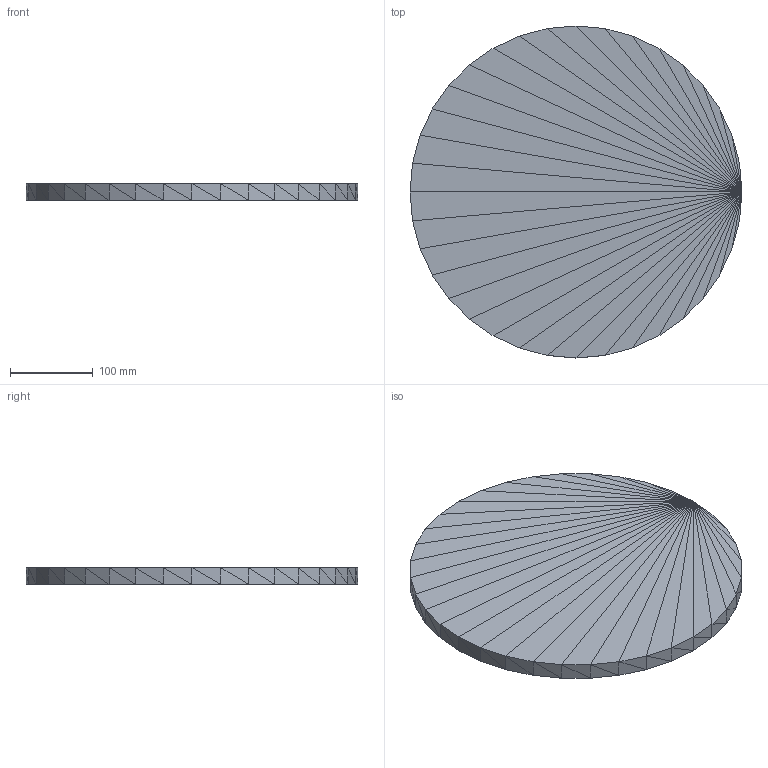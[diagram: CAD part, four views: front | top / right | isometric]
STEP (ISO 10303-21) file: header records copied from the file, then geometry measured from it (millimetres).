
FILE_DESCRIPTION(('ISINAC STEP AP214'),'2;1');
FILE_NAME('ISINAC_CIR.400_20mm_ADHESIVO','2026-05-03T10:49:19',('ISINAC'),('www.isinac.com'),'ISINAC BIM Generator 1.0','','');
FILE_SCHEMA(('AUTOMOTIVE_DESIGN'));
Length unit declared in the file: millimetre
Products named in the file (1): ISINAC_CIR.400_20mm_ADHESIVO
Bounding box: 400 x 400 x 20 mm (x, y, z)
Surface area: 275154.3 mm2 (no closed solid volume)
Topology: 0 solids, 140 shells, 140 faces, 420 edges, 420 vertices
Faces by surface type: plane 140
Entity records: 1553 total; most frequent: CARTESIAN_POINT 560, DIRECTION 280, POLY_LOOP 140, FACE_OUTER_BOUND 140, AXIS2_PLACEMENT_3D 140, PLANE 140, FACE_SURFACE 140, CLOSED_SHELL 1
